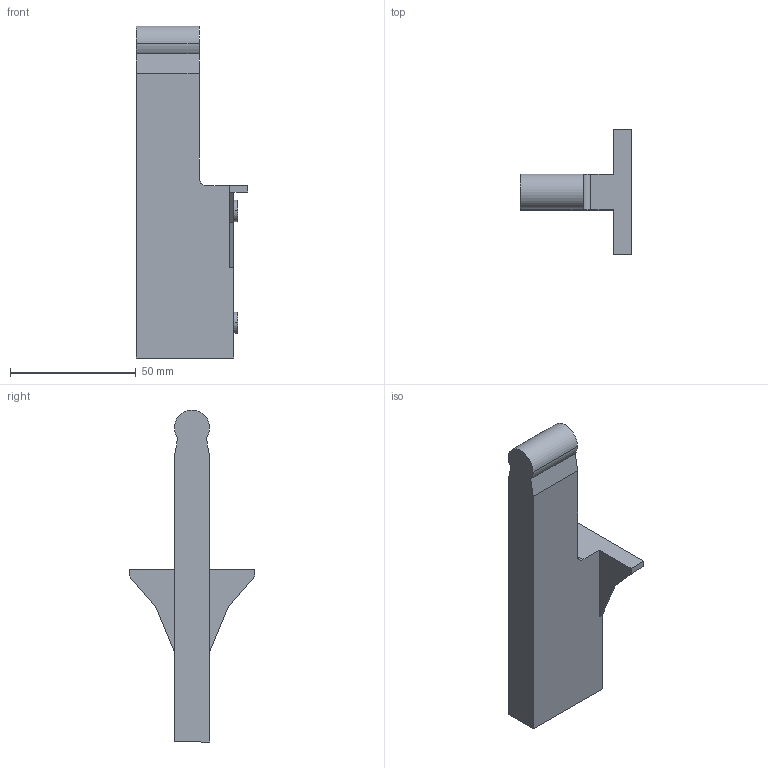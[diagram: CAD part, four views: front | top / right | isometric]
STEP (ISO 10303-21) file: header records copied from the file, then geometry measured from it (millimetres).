
FILE_DESCRIPTION (( 'STEP AP214' ), '1' );
FILE_NAME ('Halter_Magic-Optima_Nova-Pro.step', '2010-11-08T12:34:30', ( 'grass' ), ( '' ), 'SwSTEP 2.0', 'SolidWorks 2010', '' );
FILE_SCHEMA (( 'AUTOMOTIVE_DESIGN' ));
Length unit declared in the file: millimetre
Products named in the file (1): Halter_Magic-Optima_Nova-Pro
Bounding box: 44.3 x 50 x 132 mm (x, y, z)
Volume: 60740.9 mm3; surface area: 14882.5 mm2
Topology: 1 solids, 1 shells, 29 faces, 73 edges, 48 vertices
Faces by surface type: plane 21, cylinder 8
Entity records: 901 total; most frequent: CARTESIAN_POINT 151, DIRECTION 149, ORIENTED_EDGE 146, EDGE_CURVE 73, LINE 57, VECTOR 57, VERTEX_POINT 48, AXIS2_PLACEMENT_3D 46
